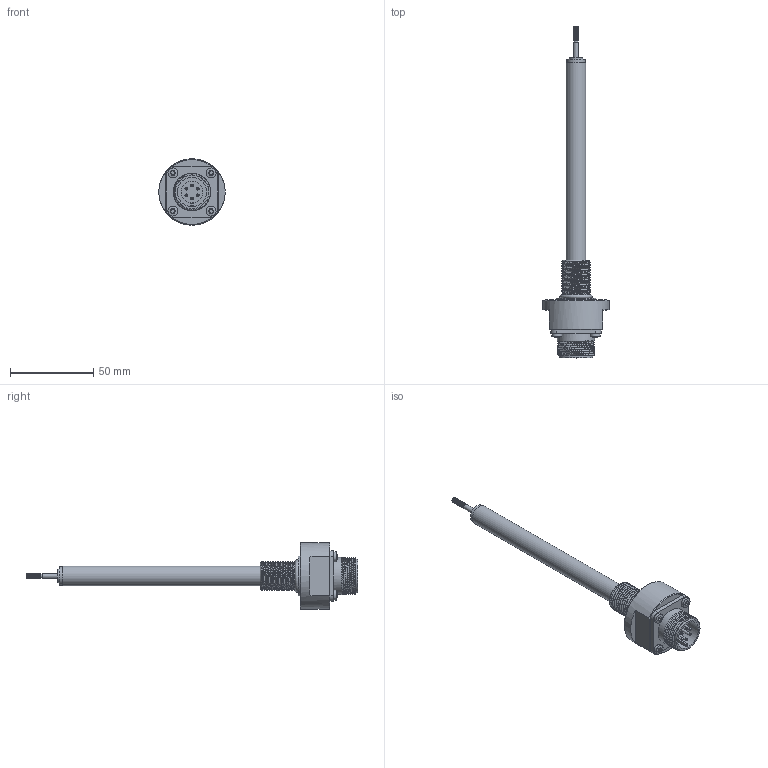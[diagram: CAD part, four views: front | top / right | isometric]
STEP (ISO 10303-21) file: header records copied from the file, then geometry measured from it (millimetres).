
FILE_DESCRIPTION( ( 'Unknown' ), '1' );
FILE_NAME( 'N:/Engineering/CAD/LVDT/HYD/Kunden-3D-Modell/SM50-HYD-M-18-S.stp', 'Unknown', ( 'Unknown' ), ( 'Unknown' ), 'PSStep 17.0.49', 'Unknown', ' ' );
FILE_SCHEMA( ( 'AUTOMOTIVE_DESIGN { 1 0 10303 214 1 1 1 1 }' ) );
Length unit declared in the file: millimetre
Products named in the file (9): Assem1; Endkappe; Innenrohr_SM5-HYD; Kernverlängerung_SM5-HYD; SM-HYD-Flansch_M18_vereinfacht; O-Ring_15,4x2,1; MIL-Stecker_2; DIN7985_M3-6_Torx; Aussenrohr_SM50-HYD-M_vereinfacht
Assembly tree (11 placements, depth 2):
  Assem1
    Endkappe
    Innenrohr_SM5-HYD
    Kernverlängerung_SM5-HYD
    SM-HYD-Flansch_M18_vereinfacht
    O-Ring_15,4x2,1
    MIL-Stecker_2
    DIN7985_M3-6_Torx  x4
    Aussenrohr_SM50-HYD-M_vereinfacht
Bounding box: 40 x 199.9 x 40 mm (x, y, z)
Volume: 45780.8 mm3; surface area: 23505.6 mm2
Topology: 11 solids, 11 shells, 255 faces, 589 edges, 385 vertices
Faces by surface type: plane 132, cylinder 82, cone 22, bspline 14, sphere 4, torus 1
Full cylindrical faces by diameter (mm): 1.4 x6, 1.6 x6, 2.013 x1, 2.4 x1, 2.5 x8, 3 x9, 4 x1, 6 x6, 8 x1, 10 x1, 11 x2, 12 x3, 13 x1, 15.8 x1, 17.6 x1, 18.8 x1, 20.2 x1, 22.3 x7, 24 x1, 40 x1
Entity records: 13563 total; most frequent: CARTESIAN_POINT 8176, DIRECTION 792, ORIENTED_EDGE 656, AXIS2_PLACEMENT_3D 336, EDGE_CURVE 328, EDGE_LOOP 289, VERTEX_POINT 255, FACE_OUTER_BOUND 236
